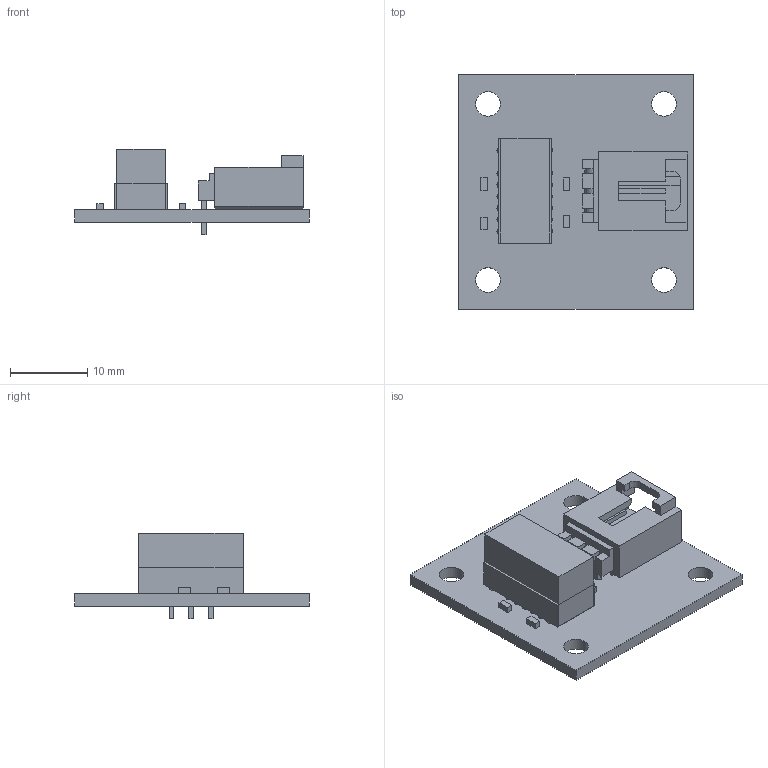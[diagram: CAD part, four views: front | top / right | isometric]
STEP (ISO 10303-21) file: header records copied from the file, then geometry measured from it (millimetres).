
FILE_DESCRIPTION(('Open CASCADE Model'),'2;1');
FILE_NAME('Open CASCADE Shape Model','2010-10-27T15:37:29',('Author'),( 'Open CASCADE'),'Open CASCADE STEP processor 6.2','Open CASCADE 6.2' ,'Unknown');
FILE_SCHEMA(('AUTOMOTIVE_DESIGN { 1 0 10303 214 1 1 1 1 }'));
Length unit declared in the file: millimetre
Products named in the file (17): PCB; Board; R2; 476626496; Extruded; R1; C2; C1; J1; 705530002; Open CASCADE STEP translator 6.2 28.6.1.1; Open CASCADE STEP translator 6.2 28.6.1.2; U1; 476638144; 476638272
Assembly tree (19 placements, depth 4):
  PCB
    Board
    R2
      476626496
        Extruded
    R1
      476626496
        Extruded
    C2
      476626496
        Extruded
    C1
      476626496
        Extruded
    J1
      705530002
        Open CASCADE STEP translator 6.2 28.6.1.1
        Open CASCADE STEP translator 6.2 28.6.1.2
    U1
      476638144
        Extruded
      476638272
        Extruded
Bounding box: 30.48 x 30.48 x 11.1 mm (x, y, z)
Volume: 2805.9 mm3; surface area: 3729.6 mm2
Topology: 8 solids, 8 shells, 176 faces, 461 edges, 312 vertices
Faces by surface type: plane 147, cylinder 29
Full cylindrical faces by diameter (mm): 0.711 x14, 0.965 x3, 3.175 x4
Entity records: 10715 total; most frequent: CARTESIAN_POINT 1791, DIRECTION 1639, LINE 1103, VECTOR 1103, ORIENTED_EDGE 832, PCURVE 832, DEFINITIONAL_REPRESENTATION 832, EDGE_CURVE 416
